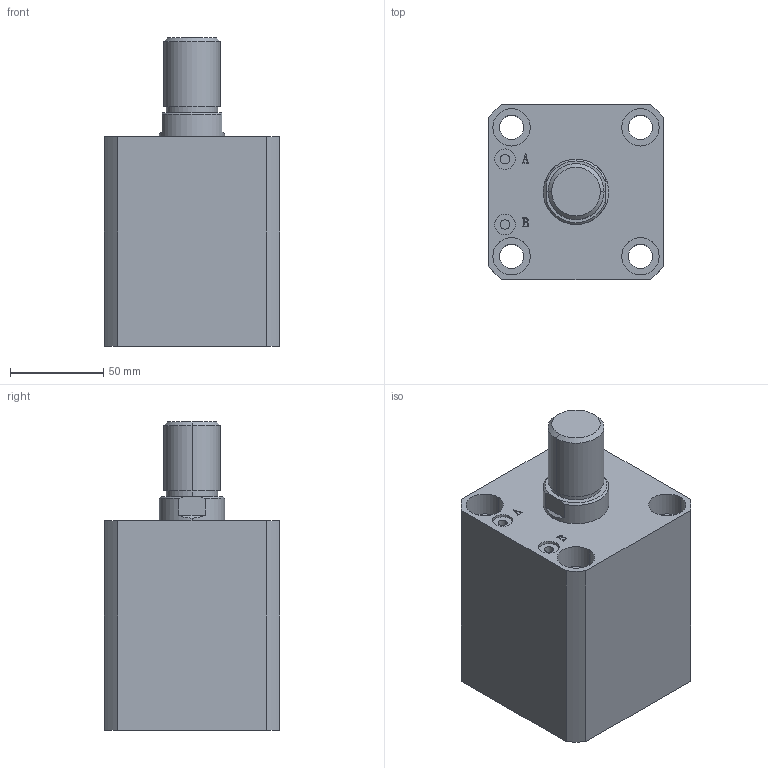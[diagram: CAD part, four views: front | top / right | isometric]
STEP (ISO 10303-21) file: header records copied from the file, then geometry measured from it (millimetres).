
FILE_DESCRIPTION (( 'STEP AP203' ), '1' );
FILE_NAME ('HTB-SDMA63-45W.STEP', '2019-10-08T01:08:02', ( '微软用户' ), ( '微软中国' ), 'SwSTEP 2.0', 'SolidWorks 2012', '' );
FILE_SCHEMA (( 'CONFIG_CONTROL_DESIGN' ));
Length unit declared in the file: millimetre
Products named in the file (3): HTB-SDMA63-45W; HTB-SDMA63-45W活塞杆; HTB-SDMA63-45掛极
Assembly tree (2 placements, depth 2):
  HTB-SDMA63-45W
    HTB-SDMA63-45掛极
    HTB-SDMA63-45W活塞杆
Bounding box: 94 x 94 x 165 mm (x, y, z)
Volume: 841806.1 mm3; surface area: 121697.8 mm2
Topology: 2 solids, 2 shells, 141 faces, 337 edges, 222 vertices
Faces by surface type: plane 67, cylinder 48, bspline 16, torus 6, cone 4
Entity records: 5176 total; most frequent: CARTESIAN_POINT 1593, ORIENTED_EDGE 674, DIRECTION 669, EDGE_CURVE 337, AXIS2_PLACEMENT_3D 242, VERTEX_POINT 222, LINE 185, VECTOR 185
